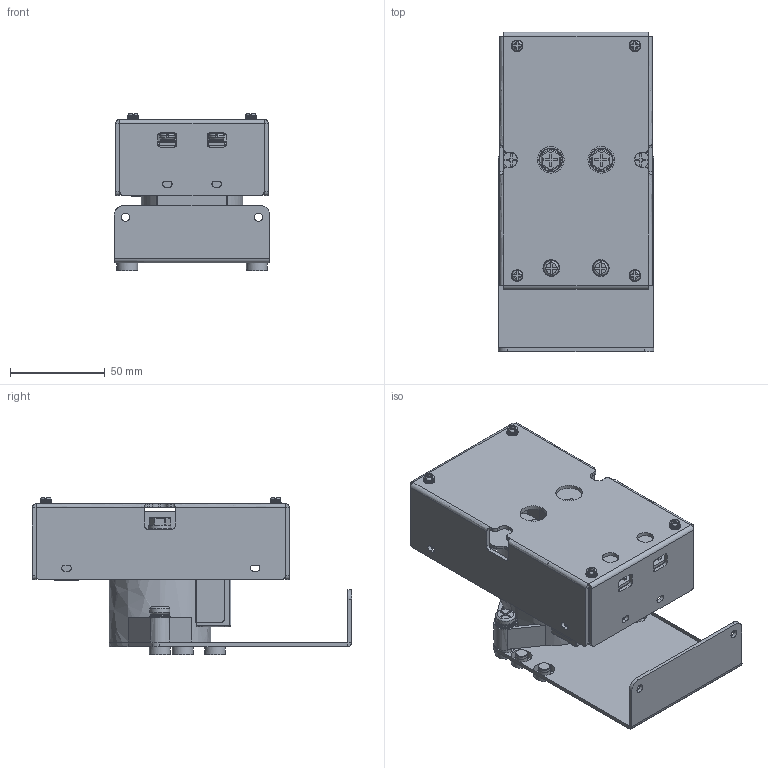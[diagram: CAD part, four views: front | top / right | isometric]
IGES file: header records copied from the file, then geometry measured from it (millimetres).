
Global section: file name: [3D] BLVD-25V(50V)250A-S-L; native system: Autodesk Inventor 2021; preprocessor: unknown; author: eunsol jang; date: 20250424.145322; units: inch
Bounding box: 82 x 168.2 x 82.68 mm (x, y, z)
Volume: 237602 mm3; surface area: 134979.6 mm2
Topology: 9 solids, 9 shells, 2498 faces, 6859 edges, 4492 vertices
Faces by surface type: bspline 2498
